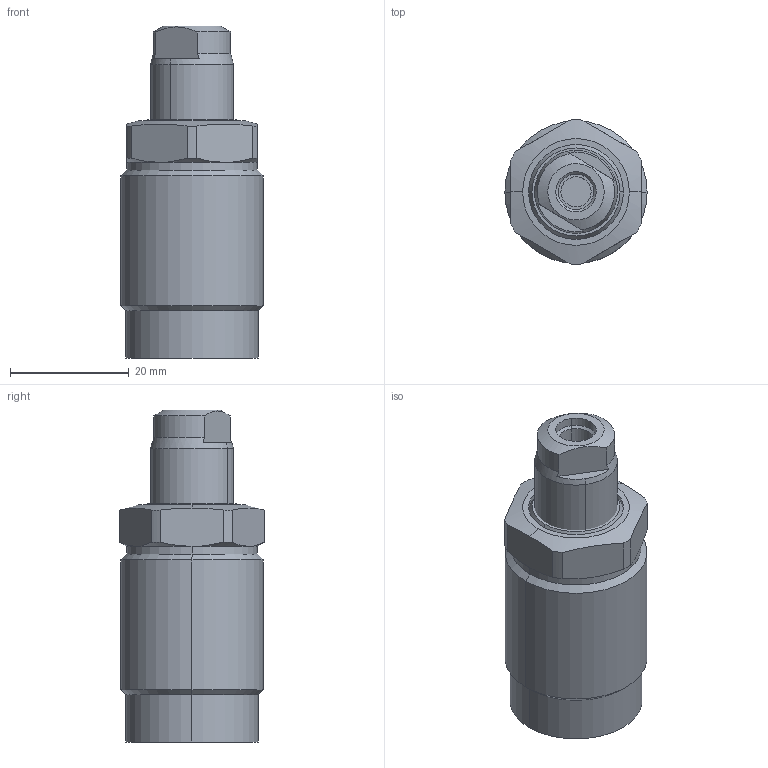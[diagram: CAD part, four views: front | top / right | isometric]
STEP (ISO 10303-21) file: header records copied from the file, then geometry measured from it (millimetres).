
FILE_DESCRIPTION (( 'STEP AP203' ), '1' );
FILE_NAME ('650241-AM.step', '2016-11-02T03:13:50', ( 'wxp' ), ( '' ), 'SwSTEP 2.0', 'SolidWorks 2011', '' );
FILE_SCHEMA (( 'CONFIG_CONTROL_DESIGN' ));
Length unit declared in the file: millimetre
Products named in the file (3): 650241-AM; 葩璃 650241-AM.sldasm-Part-2^650241-AM; 葩璃 650241-AM.sldasm-Part-1^650241-AM
Assembly tree (2 placements, depth 2):
  650241-AM
    葩璃 650241-AM.sldasm-Part-1^650241-AM
    葩璃 650241-AM.sldasm-Part-2^650241-AM
Bounding box: 24 x 24.49 x 56 mm (x, y, z)
Volume: 19258.6 mm3; surface area: 5356.2 mm2
Topology: 2 solids, 2 shells, 84 faces, 186 edges, 113 vertices
Faces by surface type: cylinder 34, cone 22, plane 22, torus 6
Entity records: 2693 total; most frequent: CARTESIAN_POINT 518, DIRECTION 430, ORIENTED_EDGE 368, AXIS2_PLACEMENT_3D 185, EDGE_CURVE 184, VERTEX_POINT 113, CIRCLE 96, EDGE_LOOP 93
